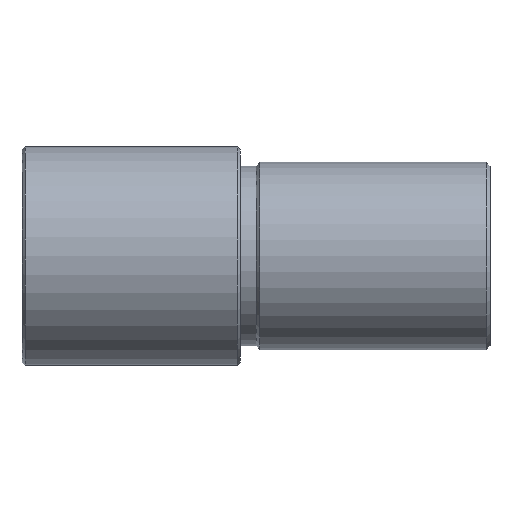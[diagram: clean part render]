
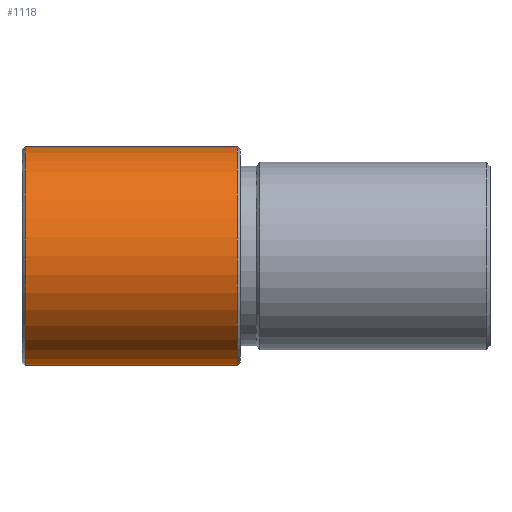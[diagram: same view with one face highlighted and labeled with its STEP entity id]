
A CAD part, top view. The second image highlights one B-rep face of the part: STEP entity #1118.
In plain terms, the highlighted cylindrical face has radius 7 mm (diameter 14 mm), a partial arc.
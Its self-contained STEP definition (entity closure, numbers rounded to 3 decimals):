
#29 = ORIENTED_EDGE ( 'NONE', *, *, #864, .F. ) ;
#53 = EDGE_CURVE ( 'NONE', #1246, #695, #427, .T. ) ;
#72 = VERTEX_POINT ( 'NONE', #1228 ) ;
#79 = CIRCLE ( 'NONE', #769, 7. ) ;
#105 = VERTEX_POINT ( 'NONE', #830 ) ;
#147 = LINE ( 'NONE', #310, #910 ) ;
#151 = DIRECTION ( 'NONE',  ( 1., 0., 0. ) ) ;
#171 = FACE_OUTER_BOUND ( 'NONE', #1088, .T. ) ;
#179 = AXIS2_PLACEMENT_3D ( 'NONE', #958, #275, #1063 ) ;
#201 = DIRECTION ( 'NONE',  ( 0., 1., 0. ) ) ;
#275 = DIRECTION ( 'NONE',  ( 1., 0., 0. ) ) ;
#310 = CARTESIAN_POINT ( 'NONE',  ( 0., 7., 0. ) ) ;
#342 = EDGE_CURVE ( 'NONE', #72, #695, #79, .T. ) ;
#377 = DIRECTION ( 'NONE',  ( 1., 0., 0. ) ) ;
#403 = EDGE_CURVE ( 'NONE', #105, #1246, #950, .T. ) ;
#408 = DIRECTION ( 'NONE',  ( 1., 0., 0. ) ) ;
#427 = LINE ( 'NONE', #1127, #544 ) ;
#544 = VECTOR ( 'NONE', #151, 1000. ) ;
#561 = AXIS2_PLACEMENT_3D ( 'NONE', #788, #885, #201 ) ;
#568 = DIRECTION ( 'NONE',  ( 0., 1., 0. ) ) ;
#695 = VERTEX_POINT ( 'NONE', #1208 ) ;
#769 = AXIS2_PLACEMENT_3D ( 'NONE', #1067, #377, #568 ) ;
#788 = CARTESIAN_POINT ( 'NONE',  ( 0., 0., 0. ) ) ;
#830 = CARTESIAN_POINT ( 'NONE',  ( -34.8, 7., 0. ) ) ;
#864 = EDGE_CURVE ( 'NONE', #105, #72, #147, .T. ) ;
#885 = DIRECTION ( 'NONE',  ( 1., 0., 0. ) ) ;
#910 = VECTOR ( 'NONE', #408, 1000. ) ;
#917 = ORIENTED_EDGE ( 'NONE', *, *, #403, .T. ) ;
#950 = CIRCLE ( 'NONE', #179, 7. ) ;
#958 = CARTESIAN_POINT ( 'NONE',  ( -34.8, 0., 0. ) ) ;
#959 = ORIENTED_EDGE ( 'NONE', *, *, #342, .F. ) ;
#1000 = CARTESIAN_POINT ( 'NONE',  ( -34.8, -7., 0. ) ) ;
#1063 = DIRECTION ( 'NONE',  ( 0., 1., 0. ) ) ;
#1064 = CYLINDRICAL_SURFACE ( 'NONE', #561, 7. ) ;
#1067 = CARTESIAN_POINT ( 'NONE',  ( -21.2, 0., 0. ) ) ;
#1088 = EDGE_LOOP ( 'NONE', ( #917, #1103, #959, #29 ) ) ;
#1103 = ORIENTED_EDGE ( 'NONE', *, *, #53, .T. ) ;
#1118 = ADVANCED_FACE ( 'NONE', ( #171 ), #1064, .T. ) ;
#1127 = CARTESIAN_POINT ( 'NONE',  ( 0., -7., 0. ) ) ;
#1208 = CARTESIAN_POINT ( 'NONE',  ( -21.2, -7., 0. ) ) ;
#1228 = CARTESIAN_POINT ( 'NONE',  ( -21.2, 7., 0. ) ) ;
#1246 = VERTEX_POINT ( 'NONE', #1000 ) ;
